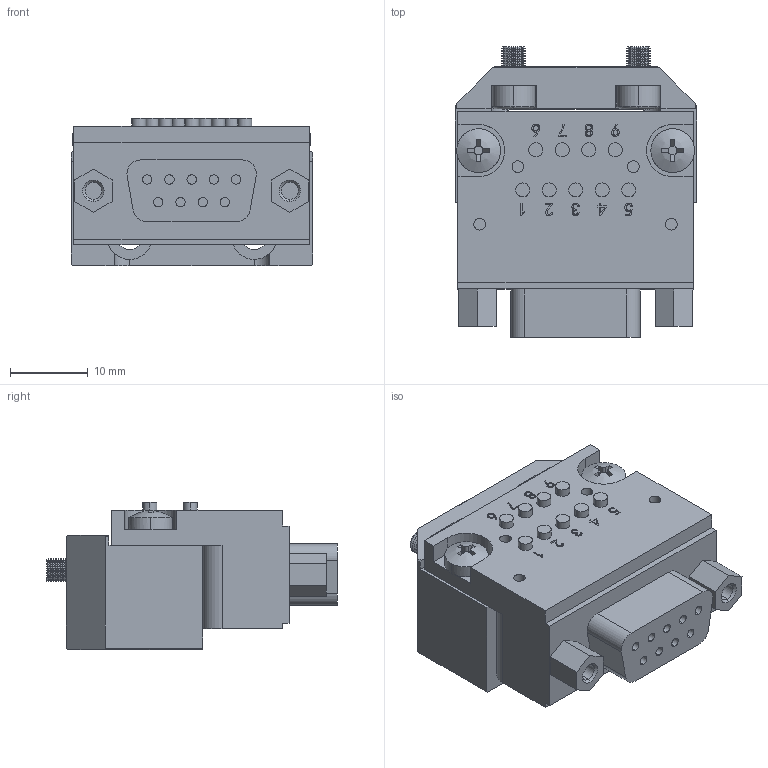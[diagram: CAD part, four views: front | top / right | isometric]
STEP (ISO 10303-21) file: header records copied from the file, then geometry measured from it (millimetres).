
FILE_DESCRIPTION (( 'STEP AP203' ), '1' );
FILE_NAME ('QCSM-9G4.STEP', '2024-04-15T06:02:32', ( '微软用户' ), ( '微软中国' ), 'SwSTEP 2.0', 'SolidWorks 2018', '' );
FILE_SCHEMA (( 'CONFIG_CONTROL_DESIGN' ));
Length unit declared in the file: millimetre
Products named in the file (1): QCSM-9G4
Bounding box: 31 x 37.3 x 18.9 mm (x, y, z)
Volume: 13022.9 mm3; surface area: 6723.1 mm2
Topology: 1 solids, 13 shells, 768 faces, 1799 edges, 1114 vertices
Faces by surface type: plane 278, cylinder 240, cone 209, bspline 41
Entity records: 22997 total; most frequent: CARTESIAN_POINT 5541, DIRECTION 3624, ORIENTED_EDGE 3590, EDGE_CURVE 1795, AXIS2_PLACEMENT_3D 1343, VERTEX_POINT 1114, LINE 938, VECTOR 938
